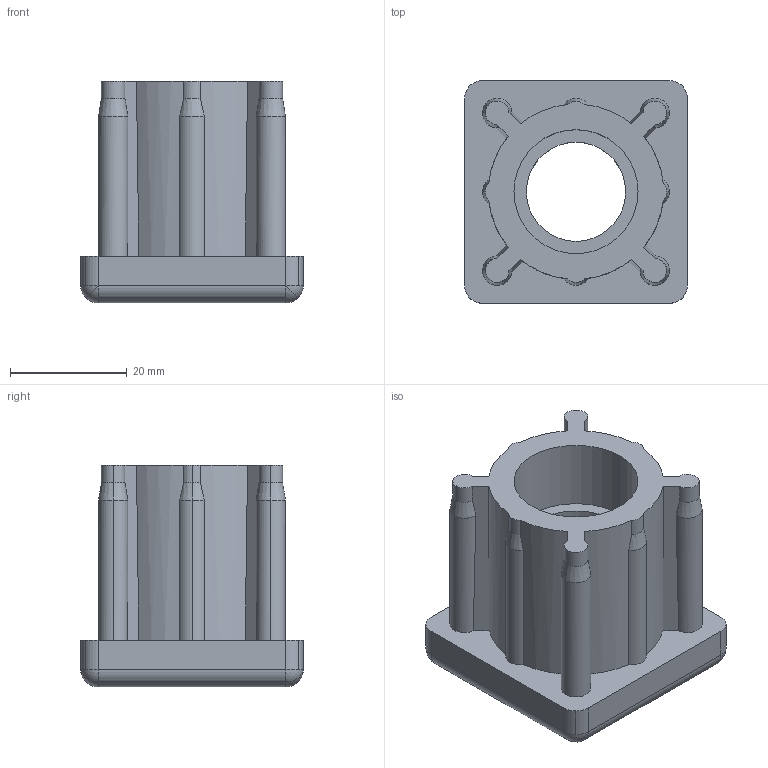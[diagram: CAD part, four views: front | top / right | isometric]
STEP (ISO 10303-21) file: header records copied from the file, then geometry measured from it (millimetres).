
FILE_DESCRIPTION (( 'STEP AP214' ), '1' );
FILE_NAME ('42006835220.STEP', '2020-02-26T11:04:29', ( '' ), ( '' ), 'SwSTEP 2.0', 'SolidWorks 2018', '' );
FILE_SCHEMA (( 'AUTOMOTIVE_DESIGN' ));
Length unit declared in the file: millimetre
Products named in the file (5): 68_7237.stp; BC_M20.stp; 42006835220; 42006835220.stp; Component1.stp
Assembly tree (4 placements, depth 4):
  42006835220
    42006835220.stp
      68_7237.stp
        Component1.stp
      BC_M20.stp
Bounding box: 38.1 x 38.1 x 38 mm (x, y, z)
Volume: 27341.9 mm3; surface area: 13167.3 mm2
Topology: 2 solids, 2 shells, 130 faces, 314 edges, 192 vertices
Faces by surface type: cylinder 70, cone 26, plane 20, sphere 8, torus 6
Entity records: 4030 total; most frequent: CARTESIAN_POINT 753, DIRECTION 734, ORIENTED_EDGE 628, EDGE_CURVE 314, AXIS2_PLACEMENT_3D 313, VERTEX_POINT 192, CIRCLE 174, EDGE_LOOP 138
